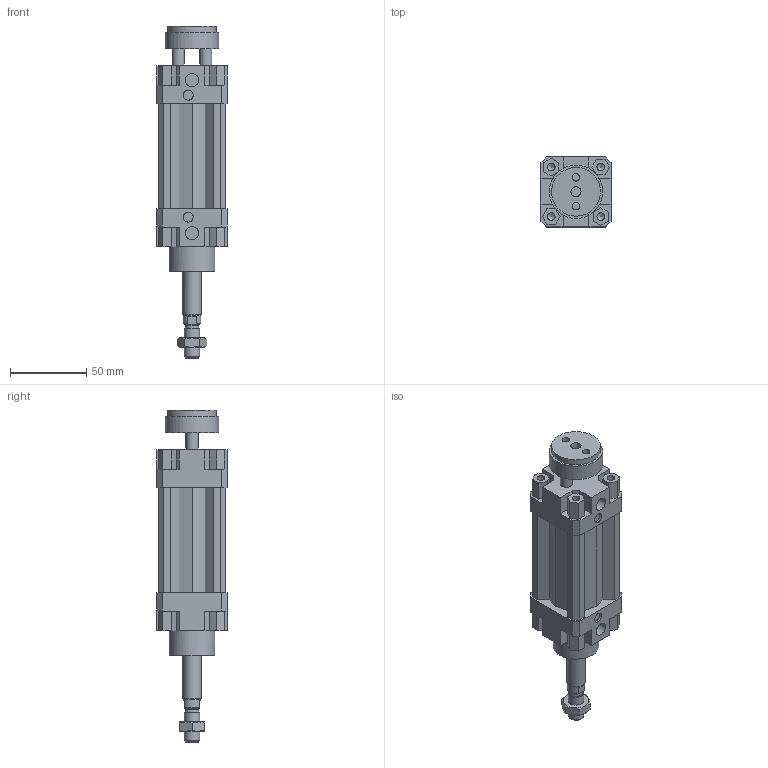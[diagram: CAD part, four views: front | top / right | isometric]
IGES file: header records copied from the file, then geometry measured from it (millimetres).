
Global section: file name: 132#_032_0025_02; native system: Autodesk Inventor 2014; preprocessor: unknown; author: A. Manieri; date: 20161006.154612; units: millimetre
Bounding box: 46 x 46 x 218 mm (x, y, z)
Volume: 203794.7 mm3; surface area: 63398.2 mm2
Topology: 3 solids, 3 shells, 227 faces, 605 edges, 405 vertices
Faces by surface type: bspline 227
